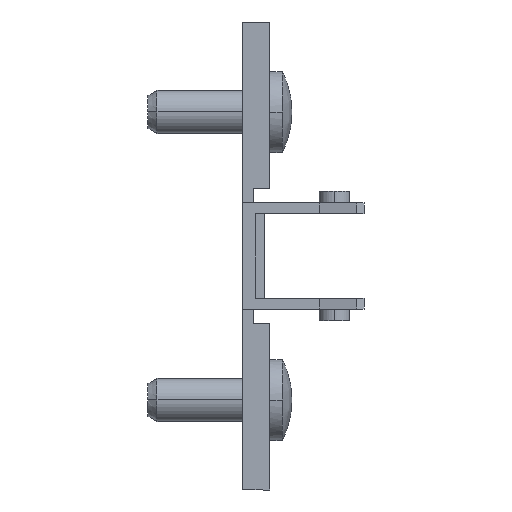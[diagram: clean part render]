
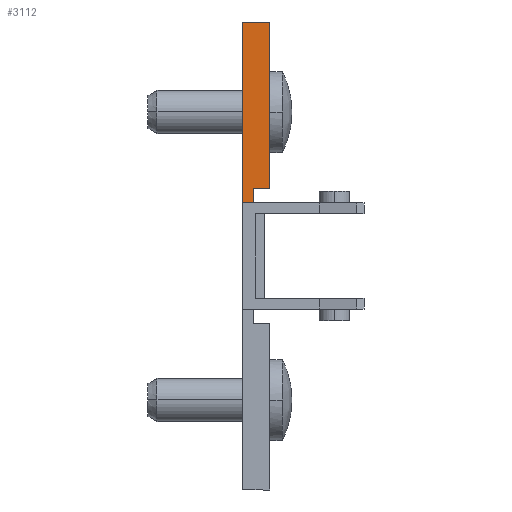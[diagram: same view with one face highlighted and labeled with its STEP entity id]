
A CAD part, front view. The second image highlights one B-rep face of the part: STEP entity #3112.
In plain terms, the highlighted planar face has unit normal (0, -1, 0).
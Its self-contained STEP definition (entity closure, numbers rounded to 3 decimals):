
#7 = EDGE_CURVE ( 'NONE', #1109, #1112, #3130, .T. ) ;
#78 = EDGE_CURVE ( 'NONE', #1056, #1051, #2660, .T. ) ;
#139 = EDGE_CURVE ( 'NONE', #1052, #1056, #2543, .T. ) ;
#151 = EDGE_CURVE ( 'NONE', #1112, #1053, #2517, .T. ) ;
#164 = EDGE_CURVE ( 'NONE', #1053, #1052, #2489, .T. ) ;
#198 = EDGE_CURVE ( 'NONE', #1051, #1109, #1602, .T. ) ;
#558 = EDGE_LOOP ( 'NONE', ( #3393, #3394, #3395, #3396, #3397, #3398 ) ) ;
#914 = FACE_OUTER_BOUND ( 'NONE', #558, .T. ) ;
#1051 = VERTEX_POINT ( 'NONE', #1696 ) ;
#1052 = VERTEX_POINT ( 'NONE', #1695 ) ;
#1053 = VERTEX_POINT ( 'NONE', #1858 ) ;
#1056 = VERTEX_POINT ( 'NONE', #1864 ) ;
#1109 = VERTEX_POINT ( 'NONE', #2056 ) ;
#1112 = VERTEX_POINT ( 'NONE', #2052 ) ;
#1184 = CARTESIAN_POINT ( 'NONE',  ( 3., -9., 26. ) ) ;
#1187 = DIRECTION ( 'NONE',  ( 0., 0., -1. ) ) ;
#1212 = DIRECTION ( 'NONE',  ( 0., 0., 1. ) ) ;
#1220 = CARTESIAN_POINT ( 'NONE',  ( 0., -9., 5. ) ) ;
#1442 = DIRECTION ( 'NONE',  ( 0., 0., -1. ) ) ;
#1443 = CARTESIAN_POINT ( 'NONE',  ( 1.2, -9., 7.5 ) ) ;
#1466 = CARTESIAN_POINT ( 'NONE',  ( 3., -9., 7.5 ) ) ;
#1467 = DIRECTION ( 'NONE',  ( -1., 0., 0. ) ) ;
#1493 = CARTESIAN_POINT ( 'NONE',  ( 0., -9., 5.9 ) ) ;
#1494 = DIRECTION ( 'NONE',  ( -1., 0., 0. ) ) ;
#1602 = LINE ( 'NONE', #2758, #1632 ) ;
#1632 = VECTOR ( 'NONE', #2759, 1000. ) ;
#1695 = CARTESIAN_POINT ( 'NONE',  ( 1.2, -9., 5.9 ) ) ;
#1696 = CARTESIAN_POINT ( 'NONE',  ( 0., -9., 26. ) ) ;
#1858 = CARTESIAN_POINT ( 'NONE',  ( 1.2, -9., 7.5 ) ) ;
#1864 = CARTESIAN_POINT ( 'NONE',  ( 0., -9., 5.9 ) ) ;
#2052 = CARTESIAN_POINT ( 'NONE',  ( 3., -9., 7.5 ) ) ;
#2056 = CARTESIAN_POINT ( 'NONE',  ( 3., -9., 26. ) ) ;
#2293 = DIRECTION ( 'NONE',  ( 0., 1., 0. ) ) ;
#2294 = DIRECTION ( 'NONE',  ( 0., 0., 1. ) ) ;
#2300 = CARTESIAN_POINT ( 'NONE',  ( 0., -9., 5. ) ) ;
#2303 = PLANE ( 'NONE',  #3000 ) ;
#2489 = LINE ( 'NONE', #1443, #2535 ) ;
#2516 = VECTOR ( 'NONE', #1467, 1000. ) ;
#2517 = LINE ( 'NONE', #1466, #2516 ) ;
#2535 = VECTOR ( 'NONE', #1442, 1000. ) ;
#2542 = VECTOR ( 'NONE', #1494, 1000. ) ;
#2543 = LINE ( 'NONE', #1493, #2542 ) ;
#2656 = VECTOR ( 'NONE', #1212, 1000. ) ;
#2660 = LINE ( 'NONE', #1220, #2656 ) ;
#2758 = CARTESIAN_POINT ( 'NONE',  ( 0., -9., 26. ) ) ;
#2759 = DIRECTION ( 'NONE',  ( 1., 0., 0. ) ) ;
#3000 = AXIS2_PLACEMENT_3D ( 'NONE', #2300, #2293, #2294 ) ;
#3112 = ADVANCED_FACE ( 'NONE', ( #914 ), #2303, .F. ) ;
#3125 = VECTOR ( 'NONE', #1187, 1000. ) ;
#3130 = LINE ( 'NONE', #1184, #3125 ) ;
#3393 = ORIENTED_EDGE ( 'NONE', *, *, #78, .F. ) ;
#3394 = ORIENTED_EDGE ( 'NONE', *, *, #139, .F. ) ;
#3395 = ORIENTED_EDGE ( 'NONE', *, *, #164, .F. ) ;
#3396 = ORIENTED_EDGE ( 'NONE', *, *, #151, .F. ) ;
#3397 = ORIENTED_EDGE ( 'NONE', *, *, #7, .F. ) ;
#3398 = ORIENTED_EDGE ( 'NONE', *, *, #198, .F. ) ;
